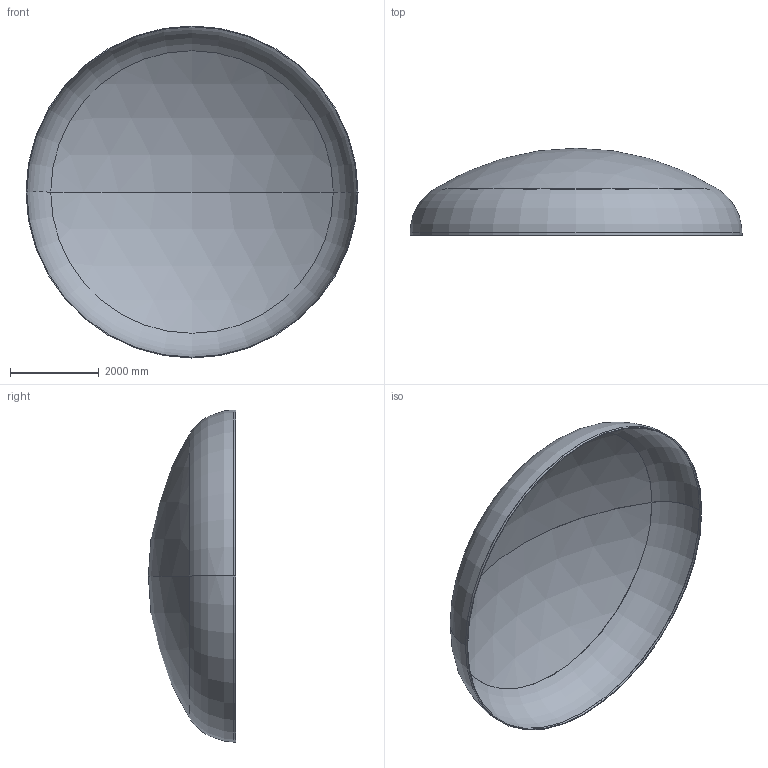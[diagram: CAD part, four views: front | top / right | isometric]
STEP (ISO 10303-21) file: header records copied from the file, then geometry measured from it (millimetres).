
FILE_DESCRIPTION (( 'STEP AP203' ), '1' );
FILE_NAME ('DIN 28013 Korbbogenform_-_Boden DIN 28013 - 7500 x 55 - I - s=17.step', '2016-07-04T10:51:50', ( '' ), ( '' ), 'SwSTEP 2.0', 'SolidWorks 2013', '' );
FILE_SCHEMA (( 'CONFIG_CONTROL_DESIGN' ));
Length unit declared in the file: millimetre
Products named in the file (1): DIN 28013 Korbbogenform_-_Boden DIN 28013 - 7500 x 55 - I - s=17
Bounding box: 7500 x 1969.81 x 7500 mm (x, y, z)
Volume: 1059132172.4 mm3; surface area: 125003984.2 mm2
Topology: 1 solids, 1 shells, 13 faces, 24 edges, 14 vertices
Faces by surface type: torus 4, cylinder 4, sphere 4, plane 1
Entity records: 407 total; most frequent: DIRECTION 72, CARTESIAN_POINT 52, ORIENTED_EDGE 48, AXIS2_PLACEMENT_3D 34, EDGE_CURVE 24, CIRCLE 20, EDGE_LOOP 14, VERTEX_POINT 14
